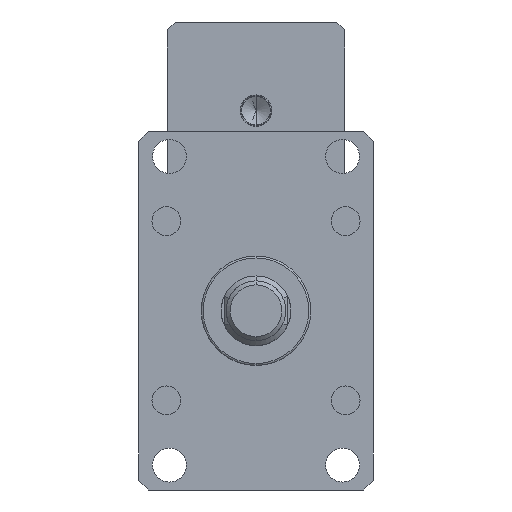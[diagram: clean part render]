
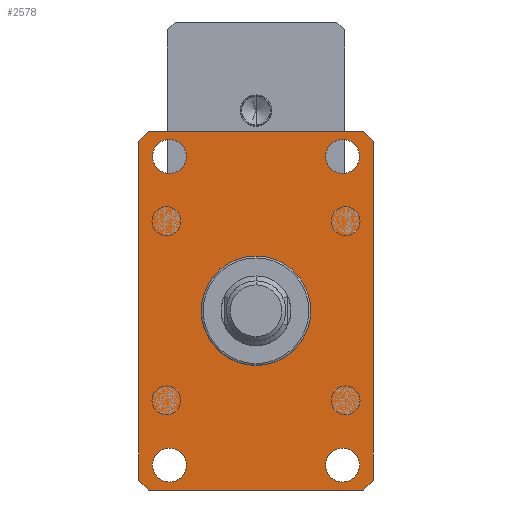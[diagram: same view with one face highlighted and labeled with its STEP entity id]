
A CAD part, front view. The second image highlights one B-rep face of the part: STEP entity #2578.
In plain terms, the highlighted planar face has unit normal (0, -1, 0).
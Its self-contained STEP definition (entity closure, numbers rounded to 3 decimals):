
#77 = CIRCLE ( 'NONE', #11396, 8.5 ) ;
#119 = EDGE_CURVE ( 'NONE', #289, #7483, #500, .T. ) ;
#208 = CARTESIAN_POINT ( 'NONE',  ( 43.5, -55., -69. ) ) ;
#255 = DIRECTION ( 'NONE',  ( 0., 1., 0. ) ) ;
#289 = VERTEX_POINT ( 'NONE', #10501 ) ;
#364 = ORIENTED_EDGE ( 'NONE', *, *, #4074, .F. ) ;
#472 = DIRECTION ( 'NONE',  ( -1., 0., 0. ) ) ;
#500 = CIRCLE ( 'NONE', #6940, 8.5 ) ;
#536 = VERTEX_POINT ( 'NONE', #2481 ) ;
#701 = CARTESIAN_POINT ( 'NONE',  ( -43.5, -55., 77.5 ) ) ;
#806 = FACE_BOUND ( 'NONE', #1467, .T. ) ;
#821 = VECTOR ( 'NONE', #6313, 1000. ) ;
#883 = CARTESIAN_POINT ( 'NONE',  ( -59., -55., 85. ) ) ;
#935 = CARTESIAN_POINT ( 'NONE',  ( -54., -55., 90. ) ) ;
#946 = VERTEX_POINT ( 'NONE', #6778 ) ;
#1035 = VERTEX_POINT ( 'NONE', #883 ) ;
#1272 = VERTEX_POINT ( 'NONE', #8989 ) ;
#1467 = EDGE_LOOP ( 'NONE', ( #11219, #11925 ) ) ;
#1534 = EDGE_CURVE ( 'NONE', #3119, #6763, #10238, .T. ) ;
#1619 = AXIS2_PLACEMENT_3D ( 'NONE', #11731, #5853, #12682 ) ;
#1678 = DIRECTION ( 'NONE',  ( 0., 0., -1. ) ) ;
#1755 = CARTESIAN_POINT ( 'NONE',  ( -43.5, -55., 69. ) ) ;
#1844 = ORIENTED_EDGE ( 'NONE', *, *, #119, .T. ) ;
#1890 = AXIS2_PLACEMENT_3D ( 'NONE', #1984, #8955, #2990 ) ;
#1984 = CARTESIAN_POINT ( 'NONE',  ( -43.5, -55., -77.5 ) ) ;
#2132 = CARTESIAN_POINT ( 'NONE',  ( -54., -55., -90. ) ) ;
#2204 = CARTESIAN_POINT ( 'NONE',  ( 59., -55., -90. ) ) ;
#2481 = CARTESIAN_POINT ( 'NONE',  ( 59., -55., -85. ) ) ;
#2578 = ADVANCED_FACE ( 'NONE', ( #11629, #11036, #806, #5788, #3147 ), #10138, .F. ) ;
#2599 = ORIENTED_EDGE ( 'NONE', *, *, #3070, .T. ) ;
#2627 = CARTESIAN_POINT ( 'NONE',  ( -43.5, -55., -86. ) ) ;
#2692 = DIRECTION ( 'NONE',  ( 0., 1., 0. ) ) ;
#2926 = CARTESIAN_POINT ( 'NONE',  ( -43.5, -55., -77.5 ) ) ;
#2990 = DIRECTION ( 'NONE',  ( 0., 0., 1. ) ) ;
#3048 = VERTEX_POINT ( 'NONE', #5035 ) ;
#3054 = LINE ( 'NONE', #12304, #5408 ) ;
#3070 = EDGE_CURVE ( 'NONE', #7697, #1035, #4079, .T. ) ;
#3119 = VERTEX_POINT ( 'NONE', #7154 ) ;
#3147 = FACE_BOUND ( 'NONE', #5371, .T. ) ;
#3503 = VECTOR ( 'NONE', #12221, 1000. ) ;
#3529 = DIRECTION ( 'NONE',  ( -0.707, 0., 0.707 ) ) ;
#3762 = VECTOR ( 'NONE', #8040, 1000. ) ;
#3888 = DIRECTION ( 'NONE',  ( 0., 0., 1. ) ) ;
#3949 = DIRECTION ( 'NONE',  ( 0., 0., 1. ) ) ;
#4074 = EDGE_CURVE ( 'NONE', #6763, #3119, #7936, .T. ) ;
#4079 = LINE ( 'NONE', #4989, #3762 ) ;
#4130 = DIRECTION ( 'NONE',  ( 0., -1., 0. ) ) ;
#4217 = CARTESIAN_POINT ( 'NONE',  ( 43.5, -55., 86. ) ) ;
#4219 = EDGE_CURVE ( 'NONE', #7483, #289, #12208, .T. ) ;
#4366 = EDGE_CURVE ( 'NONE', #9096, #4732, #10679, .T. ) ;
#4442 = ORIENTED_EDGE ( 'NONE', *, *, #9510, .F. ) ;
#4622 = ORIENTED_EDGE ( 'NONE', *, *, #12550, .T. ) ;
#4732 = VERTEX_POINT ( 'NONE', #7264 ) ;
#4779 = DIRECTION ( 'NONE',  ( 0., -1., 0. ) ) ;
#4989 = CARTESIAN_POINT ( 'NONE',  ( -59., -55., 85. ) ) ;
#5020 = ORIENTED_EDGE ( 'NONE', *, *, #9196, .T. ) ;
#5035 = CARTESIAN_POINT ( 'NONE',  ( -59., -55., -85. ) ) ;
#5155 = DIRECTION ( 'NONE',  ( 0., 1., 0. ) ) ;
#5371 = EDGE_LOOP ( 'NONE', ( #364, #9681 ) ) ;
#5408 = VECTOR ( 'NONE', #472, 1000. ) ;
#5429 = AXIS2_PLACEMENT_3D ( 'NONE', #2926, #9880, #3949 ) ;
#5578 = CARTESIAN_POINT ( 'NONE',  ( -54., -55., -90. ) ) ;
#5650 = CIRCLE ( 'NONE', #5429, 8.5 ) ;
#5670 = VERTEX_POINT ( 'NONE', #10860 ) ;
#5788 = FACE_OUTER_BOUND ( 'NONE', #6056, .T. ) ;
#5853 = DIRECTION ( 'NONE',  ( 0., -1., 0. ) ) ;
#5958 = CIRCLE ( 'NONE', #1890, 8.5 ) ;
#6022 = CARTESIAN_POINT ( 'NONE',  ( -59., -55., -85. ) ) ;
#6056 = EDGE_LOOP ( 'NONE', ( #12146, #10607, #5020, #10008, #7327, #2599, #11133, #4622 ) ) ;
#6313 = DIRECTION ( 'NONE',  ( 0.707, 0., 0.707 ) ) ;
#6330 = CARTESIAN_POINT ( 'NONE',  ( 54., -55., 90. ) ) ;
#6450 = ORIENTED_EDGE ( 'NONE', *, *, #4219, .T. ) ;
#6495 = EDGE_CURVE ( 'NONE', #1035, #3048, #8776, .T. ) ;
#6729 = EDGE_LOOP ( 'NONE', ( #4442, #12266 ) ) ;
#6751 = LINE ( 'NONE', #8261, #821 ) ;
#6763 = VERTEX_POINT ( 'NONE', #4217 ) ;
#6778 = CARTESIAN_POINT ( 'NONE',  ( -43.5, -55., -69. ) ) ;
#6940 = AXIS2_PLACEMENT_3D ( 'NONE', #8668, #2692, #9630 ) ;
#6996 = CARTESIAN_POINT ( 'NONE',  ( 59., -55., 85. ) ) ;
#7154 = CARTESIAN_POINT ( 'NONE',  ( 43.5, -55., 69. ) ) ;
#7203 = EDGE_CURVE ( 'NONE', #1272, #10810, #10493, .T. ) ;
#7214 = EDGE_LOOP ( 'NONE', ( #6450, #1844 ) ) ;
#7237 = DIRECTION ( 'NONE',  ( 0., 0., 1. ) ) ;
#7264 = CARTESIAN_POINT ( 'NONE',  ( -43.5, -55., 86. ) ) ;
#7327 = ORIENTED_EDGE ( 'NONE', *, *, #9859, .T. ) ;
#7413 = CARTESIAN_POINT ( 'NONE',  ( -59., -55., 85. ) ) ;
#7427 = LINE ( 'NONE', #6996, #12302 ) ;
#7483 = VERTEX_POINT ( 'NONE', #208 ) ;
#7657 = DIRECTION ( 'NONE',  ( 0., -1., 0. ) ) ;
#7697 = VERTEX_POINT ( 'NONE', #935 ) ;
#7874 = VECTOR ( 'NONE', #3529, 1000. ) ;
#7936 = CIRCLE ( 'NONE', #1619, 8.5 ) ;
#8029 = DIRECTION ( 'NONE',  ( 0.707, 0., -0.707 ) ) ;
#8040 = DIRECTION ( 'NONE',  ( -0.707, 0., -0.707 ) ) ;
#8261 = CARTESIAN_POINT ( 'NONE',  ( 54., -55., -90. ) ) ;
#8329 = VECTOR ( 'NONE', #11459, 1000. ) ;
#8640 = LINE ( 'NONE', #5578, #8329 ) ;
#8668 = CARTESIAN_POINT ( 'NONE',  ( 43.5, -55., -77.5 ) ) ;
#8771 = AXIS2_PLACEMENT_3D ( 'NONE', #10690, #4779, #11675 ) ;
#8776 = LINE ( 'NONE', #7413, #3503 ) ;
#8955 = DIRECTION ( 'NONE',  ( 0., 1., 0. ) ) ;
#8989 = CARTESIAN_POINT ( 'NONE',  ( 59., -55., 85. ) ) ;
#9096 = VERTEX_POINT ( 'NONE', #1755 ) ;
#9196 = EDGE_CURVE ( 'NONE', #536, #1272, #7427, .T. ) ;
#9471 = EDGE_CURVE ( 'NONE', #11355, #5670, #8640, .T. ) ;
#9510 = EDGE_CURVE ( 'NONE', #4732, #9096, #77, .T. ) ;
#9630 = DIRECTION ( 'NONE',  ( 0., 0., 1. ) ) ;
#9681 = ORIENTED_EDGE ( 'NONE', *, *, #1534, .F. ) ;
#9859 = EDGE_CURVE ( 'NONE', #10810, #7697, #3054, .T. ) ;
#9880 = DIRECTION ( 'NONE',  ( 0., 1., 0. ) ) ;
#9979 = LINE ( 'NONE', #6022, #12247 ) ;
#10008 = ORIENTED_EDGE ( 'NONE', *, *, #7203, .T. ) ;
#10046 = CARTESIAN_POINT ( 'NONE',  ( -43.5, -55., 77.5 ) ) ;
#10138 = PLANE ( 'NONE',  #10415 ) ;
#10238 = CIRCLE ( 'NONE', #8771, 8.5 ) ;
#10415 = AXIS2_PLACEMENT_3D ( 'NONE', #2204, #255, #7237 ) ;
#10493 = LINE ( 'NONE', #11360, #7874 ) ;
#10501 = CARTESIAN_POINT ( 'NONE',  ( 43.5, -55., -86. ) ) ;
#10607 = ORIENTED_EDGE ( 'NONE', *, *, #12214, .T. ) ;
#10679 = CIRCLE ( 'NONE', #12598, 8.5 ) ;
#10690 = CARTESIAN_POINT ( 'NONE',  ( 43.5, -55., 77.5 ) ) ;
#10810 = VERTEX_POINT ( 'NONE', #6330 ) ;
#10860 = CARTESIAN_POINT ( 'NONE',  ( 54., -55., -90. ) ) ;
#10912 = AXIS2_PLACEMENT_3D ( 'NONE', #11070, #5155, #12025 ) ;
#11015 = DIRECTION ( 'NONE',  ( 0., 0., -1. ) ) ;
#11036 = FACE_BOUND ( 'NONE', #7214, .T. ) ;
#11070 = CARTESIAN_POINT ( 'NONE',  ( 43.5, -55., -77.5 ) ) ;
#11133 = ORIENTED_EDGE ( 'NONE', *, *, #6495, .T. ) ;
#11219 = ORIENTED_EDGE ( 'NONE', *, *, #11942, .T. ) ;
#11355 = VERTEX_POINT ( 'NONE', #2132 ) ;
#11360 = CARTESIAN_POINT ( 'NONE',  ( 54., -55., 90. ) ) ;
#11396 = AXIS2_PLACEMENT_3D ( 'NONE', #701, #7657, #1678 ) ;
#11459 = DIRECTION ( 'NONE',  ( 1., 0., 0. ) ) ;
#11629 = FACE_BOUND ( 'NONE', #6729, .T. ) ;
#11675 = DIRECTION ( 'NONE',  ( 0., 0., -1. ) ) ;
#11731 = CARTESIAN_POINT ( 'NONE',  ( 43.5, -55., 77.5 ) ) ;
#11925 = ORIENTED_EDGE ( 'NONE', *, *, #12466, .T. ) ;
#11942 = EDGE_CURVE ( 'NONE', #946, #12326, #5958, .T. ) ;
#12025 = DIRECTION ( 'NONE',  ( 0., 0., 1. ) ) ;
#12146 = ORIENTED_EDGE ( 'NONE', *, *, #9471, .T. ) ;
#12208 = CIRCLE ( 'NONE', #10912, 8.5 ) ;
#12214 = EDGE_CURVE ( 'NONE', #5670, #536, #6751, .T. ) ;
#12221 = DIRECTION ( 'NONE',  ( 0., 0., -1. ) ) ;
#12247 = VECTOR ( 'NONE', #8029, 1000. ) ;
#12266 = ORIENTED_EDGE ( 'NONE', *, *, #4366, .F. ) ;
#12302 = VECTOR ( 'NONE', #3888, 1000. ) ;
#12304 = CARTESIAN_POINT ( 'NONE',  ( -54., -55., 90. ) ) ;
#12326 = VERTEX_POINT ( 'NONE', #2627 ) ;
#12466 = EDGE_CURVE ( 'NONE', #12326, #946, #5650, .T. ) ;
#12550 = EDGE_CURVE ( 'NONE', #3048, #11355, #9979, .T. ) ;
#12598 = AXIS2_PLACEMENT_3D ( 'NONE', #10046, #4130, #11015 ) ;
#12682 = DIRECTION ( 'NONE',  ( 0., 0., -1. ) ) ;
